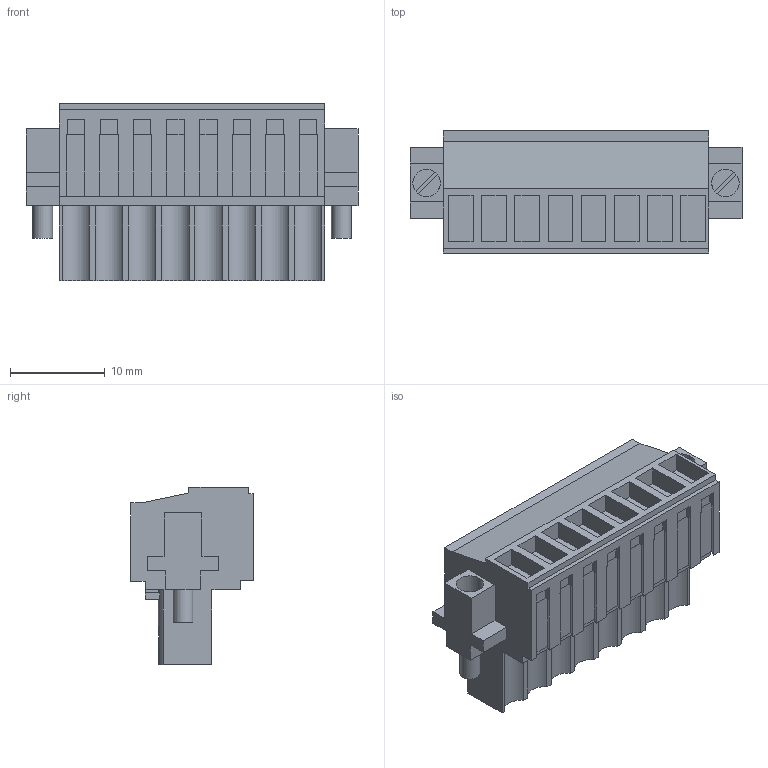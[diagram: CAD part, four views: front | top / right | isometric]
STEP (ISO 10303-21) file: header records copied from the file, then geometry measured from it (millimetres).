
FILE_DESCRIPTION(/* description */ (''),/* implementation_level */ '2;1');
FILE_NAME(/* name */ '047916_0000036383_C9900-P926.stp',/* time_stamp */ '2026-03-19T16:15:41+01:00',/* author */ ('ChristianSch'),/* organization */ (''),/* preprocessor_version */ 'ST-DEVELOPER v20.1',/* originating_system */ 'Autodesk Inventor 2026',/* authorisation */ '');
FILE_SCHEMA (('AUTOMOTIVE_DESIGN { 1 0 10303 214 3 1 1 }'));
Length unit declared in the file: millimetre
Products named in the file (1): 047916_0000036383_C9900-P926
Bounding box: 35 x 12.9 x 18.7 mm (x, y, z)
Volume: 4362.9 mm3; surface area: 3822.6 mm2
Topology: 11 solids, 11 shells, 523 faces, 1389 edges, 926 vertices
Faces by surface type: plane 481, cylinder 42
Full cylindrical faces by diameter (mm): 2.1 x4, 2.9 x6, 2.95 x16
Entity records: 16567 total; most frequent: CARTESIAN_POINT 2839, ORIENTED_EDGE 2778, DIRECTION 2613, EDGE_CURVE 1389, LINE 1213, VECTOR 1213, VERTEX_POINT 926, AXIS2_PLACEMENT_3D 700
